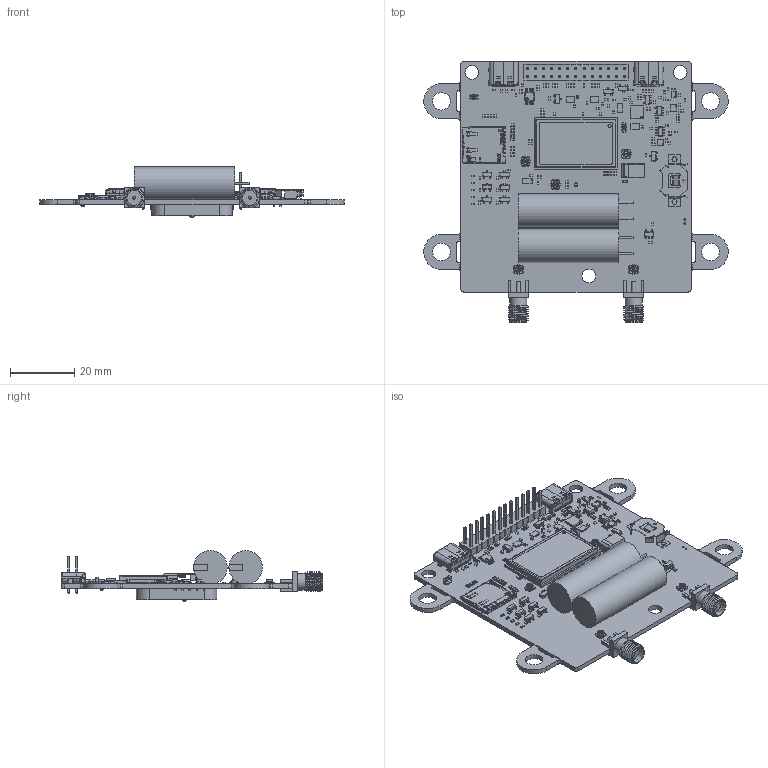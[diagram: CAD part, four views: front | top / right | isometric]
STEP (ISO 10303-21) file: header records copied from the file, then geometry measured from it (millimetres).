
FILE_DESCRIPTION(('KiCad electronic assembly'),'2;1');
FILE_NAME('.step','2026-10-12T11:28:44',('Pcbnew'),('Kicad'), 'Open CASCADE STEP processor 7.9','KiCad to STEP converter','Unknown' );
FILE_SCHEMA(('AUTOMOTIVE_DESIGN { 1 0 10303 214 1 1 1 1 }'));
Length unit declared in the file: millimetre
Products named in the file (77): .step 1; C_0402_1005Metric; SOT-23; CP_EIA-7343-31_Kemet-D; CP_EIA_7343_31_Kemet_D; R_0402_1005Metric; 3030TR; KP13B-SF-PEJ_800_; KP13B-SF-PEJ(800); KP13B-SF-PEJ; USB_C_Receptacle_GCT_USB4105-xx-A_16P_TopMnt_Horizontal; USB_C_Receptacle_16P_TopMnt_Horizontal_GCT_USB4105-xx-A; CGA0402MLC-12G; ASSEMBLY; Body; Pins; RSV0016A; RSV0016A_ASM; BODY-SON1; FRAME-RSV0016A; SOLID; SOT-583-8; U.FL-R-SMT-1; U.FL-R-SMT-003; TSSOP-8_3x3mm_P0.65mm; QFN-24-1EP_4x4mm_P0.5mm_EP2.6x2.6mm; QFN-24-1EP_4x4mm_Pitch0.5mm; PinHeader_2x13_P2.54mm_Vertical; PinHeader_2x13_P254mm_Vertical; SOT-23-6; SOT-23-5; R_0603_1608Metric; SOT-143; SMA_Samtec_SMA-J-P-H-ST-EM1_EdgeMount; iridium-9604 1; IRIDIUM-9604; User Library-Keystone_5019; 98F06657-11D6-4887-9DD8-5708299E6D0A; OV-7604-C7-32.768KHZ-20PPM-TA-QC; OV-0100-C7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
Assembly tree (224 placements, depth 5):
  .step 1
    C_0402_1005Metric  x38
      C_0402_1005Metric
    SOT-23  x10
      SOT-23
    CP_EIA-7343-31_Kemet-D
      CP_EIA_7343_31_Kemet_D
    R_0402_1005Metric  x81
      R_0402_1005Metric
    3030TR
      3030TR
    KP13B-SF-PEJ_800_
      KP13B-SF-PEJ(800)
        KP13B-SF-PEJ
    USB_C_Receptacle_GCT_USB4105-xx-A_16P_TopMnt_Horizontal  x3
      USB_C_Receptacle_16P_TopMnt_Horizontal_GCT_USB4105-xx-A
    CGA0402MLC-12G  x4
      ASSEMBLY
        Body
        Pins
    RSV0016A  x4
      RSV0016A_ASM
        BODY-SON1
        FRAME-RSV0016A
          SOLID
          SOLID
          SOLID
          SOLID
          SOLID
          SOLID
          SOLID
          SOLID
          SOLID
          SOLID
          SOLID
          SOLID
          SOLID
          SOLID
          SOLID
          SOLID
    SOT-583-8
      SOT-583-8
    U.FL-R-SMT-1  x5
      U.FL-R-SMT-003
    TSSOP-8_3x3mm_P0.65mm
      TSSOP-8_3x3mm_P0.65mm
    QFN-24-1EP_4x4mm_P0.5mm_EP2.6x2.6mm
      QFN-24-1EP_4x4mm_Pitch0.5mm
    PinHeader_2x13_P2.54mm_Vertical
      PinHeader_2x13_P254mm_Vertical
    SOT-23-6
      SOT-23-6
    SOT-23-5  x2
      SOT-23-5
    R_0603_1608Metric
      R_0603_1608Metric
    SOT-143
      SOT-143
    SMA_Samtec_SMA-J-P-H-ST-EM1_EdgeMount  x2
      SMA_Samtec_SMA-J-P-H-ST-EM1_EdgeMount
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Bounding box: 95 x 81.63 x 15.88 mm (x, y, z)
Volume: 18750.7 mm3; surface area: 23564.4 mm2
Topology: 367 solids, 368 shells, 10623 faces, 27231 edges, 17598 vertices
Faces by surface type: plane 7750, cylinder 2390, bspline 399, cone 68, revolution 10, sphere 6
Full cylindrical faces by diameter (mm): 0.1 x1, 0.2 x2, 0.25 x2, 0.3 x40, 0.5 x14, 0.65 x4, 0.66 x4, 0.84 x2, 1 x26, 1.2 x1, 1.27 x2, 1.7 x5, 1.86 x5, 2 x10, 4.3 x3, 4.63 x2, 5.2 x4, 5.5 x4, 6.33 x12, 10.49 x2
Entity records: 157718 total; most frequent: CARTESIAN_POINT 32219, ORIENTED_EDGE 22036, DIRECTION 20827, EDGE_CURVE 11018, LINE 9039, VECTOR 9039, VERTEX_POINT 7112, AXIS2_PLACEMENT_3D 5893
